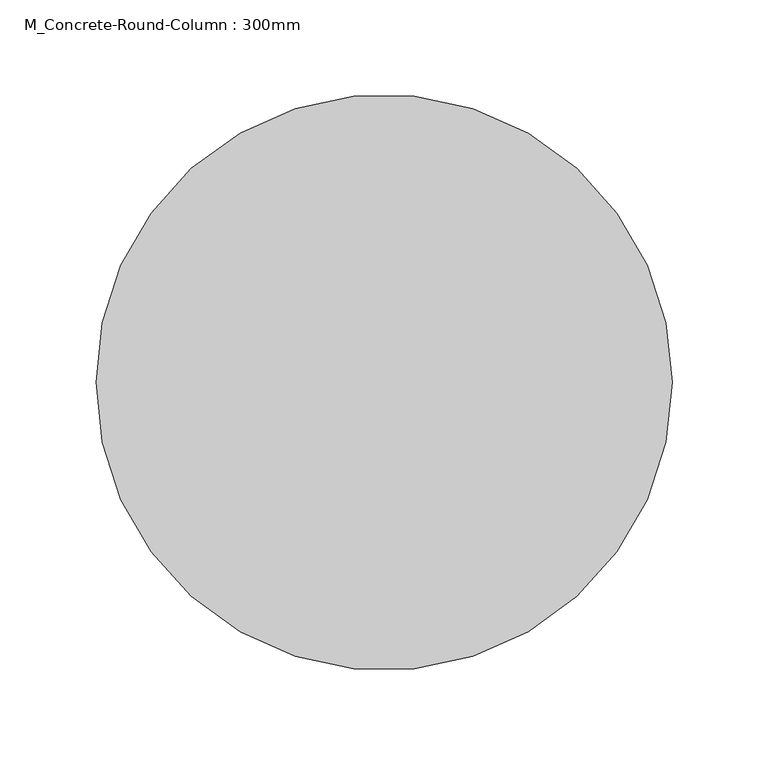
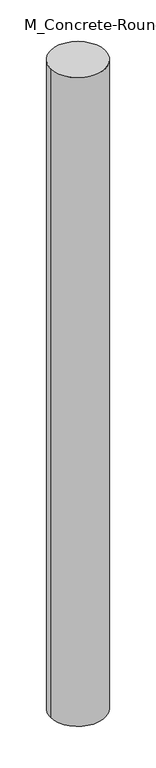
"""IFC4 building model written with IfcOpenShell, lengths in millimetres: column geometry, M_Concrete-Round-Column : 300mm."""

from ifc_helpers import new_model, si_unit, point, origin, origin_with_axes, origin_2d, place, context, project, spatial, circle_curve, trimmed, segment, composite_curve, outline, extrude, source, transform, mapped, element, save


def m_concrete_round_column_300mm_d628642f(model_context):
    return source(origin(), model_context, "Body", "SweptSolid", [
        extrude(outline(composite_curve([segment(trimmed(circle_curve(origin_2d(), 150.0), [point((-150.0, 0.0))], [point((150.0, 0.0))], False, "CARTESIAN"), True, "CONTINUOUS"), segment(trimmed(circle_curve(origin_2d(), 150.0), [point((150.0, 0.0))], [point((-150.0, 0.0))], False, "CARTESIAN"), True, "CONTINUOUS")], self_intersect=False)), origin_with_axes(), (0.0, 0.0, 1.0), 3750.0),
    ])


if __name__ == "__main__":
    model = new_model("IFC4")
    model_context = context("Model", 3, world=origin())
    ifc_project = project(units=[si_unit("LENGTHUNIT", "METRE", prefix="MILLI")], contexts=[model_context])
    site = spatial("IfcSite", under=ifc_project)
    building = spatial("IfcBuilding", under=site)
    placement = place(None, origin())
    m_concrete_round_column_300mm_shape = m_concrete_round_column_300mm_d628642f(model_context)
    element("IfcColumn", 1, ObjectType="M_Concrete-Round-Column : 300mm", at=placement, inside=building, context=model_context, shape_type="MappedRepresentation", body=[
        mapped(m_concrete_round_column_300mm_shape, transform((0.0, 0.0, 0.0), x_axis=(1.0, 0.0, 0.0), y_axis=(0.0, 1.0, 0.0), z_axis=(0.0, 0.0, 1.0))),
    ])
    save(model, "model.ifc")
